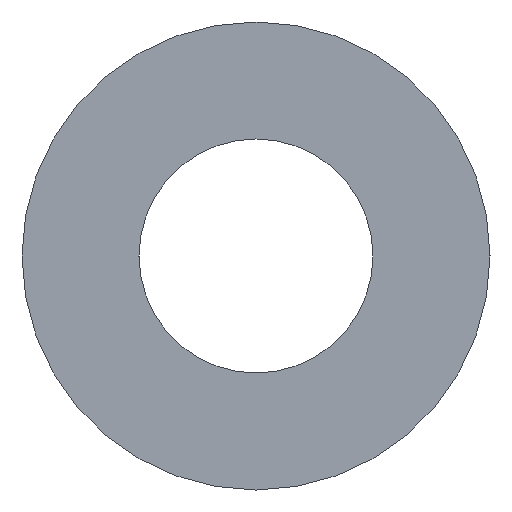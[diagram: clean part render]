
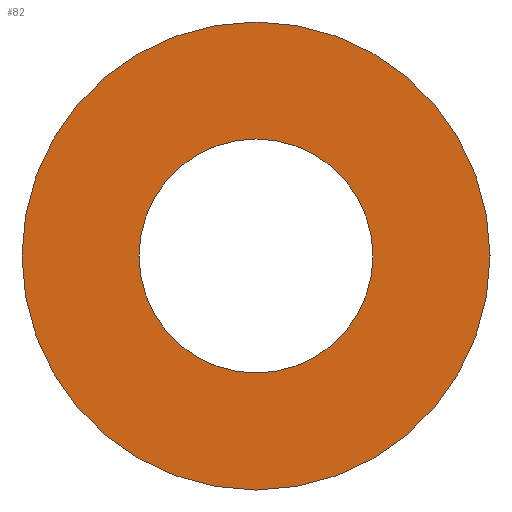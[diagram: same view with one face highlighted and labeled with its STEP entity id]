
A CAD part, left-side view. The second image highlights one B-rep face of the part: STEP entity #82.
In plain terms, the highlighted planar face has unit normal (-1, 0, 0).
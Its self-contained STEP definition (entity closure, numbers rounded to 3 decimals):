
#82 = ADVANCED_FACE( '', ( #109, #110 ), #111, .T. );
#109 = FACE_BOUND( '', #145, .T. );
#110 = FACE_OUTER_BOUND( '', #146, .T. );
#111 = PLANE( '', #147 );
#145 = EDGE_LOOP( '', ( #195 ) );
#146 = EDGE_LOOP( '', ( #196 ) );
#147 = AXIS2_PLACEMENT_3D( '', #197, #198, #199 );
#195 = ORIENTED_EDGE( '', *, *, #229, .T. );
#196 = ORIENTED_EDGE( '', *, *, #228, .F. );
#197 = CARTESIAN_POINT( '', ( 0., 8., 0. ) );
#198 = DIRECTION( '', ( -1., 0., 0. ) );
#199 = DIRECTION( '', ( 0., 0., 1. ) );
#228 = EDGE_CURVE( '', #248, #248, #249, .T. );
#229 = EDGE_CURVE( '', #250, #250, #251, .T. );
#248 = VERTEX_POINT( '', #272 );
#249 = CIRCLE( '', #273, 8. );
#250 = VERTEX_POINT( '', #274 );
#251 = CIRCLE( '', #275, 4. );
#272 = CARTESIAN_POINT( '', ( 0., 0., -8. ) );
#273 = AXIS2_PLACEMENT_3D( '', #304, #305, #306 );
#274 = CARTESIAN_POINT( '', ( 0., 0., -4. ) );
#275 = AXIS2_PLACEMENT_3D( '', #307, #308, #309 );
#304 = CARTESIAN_POINT( '', ( 0., 0., 0. ) );
#305 = DIRECTION( '', ( 1., 0., 0. ) );
#306 = DIRECTION( '', ( 0., 0., -1. ) );
#307 = CARTESIAN_POINT( '', ( 0., 0., 0. ) );
#308 = DIRECTION( '', ( 1., 0., 0. ) );
#309 = DIRECTION( '', ( 0., 0., -1. ) );
